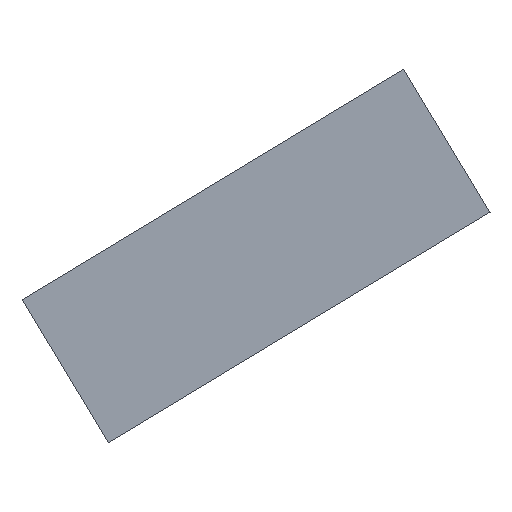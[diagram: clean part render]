
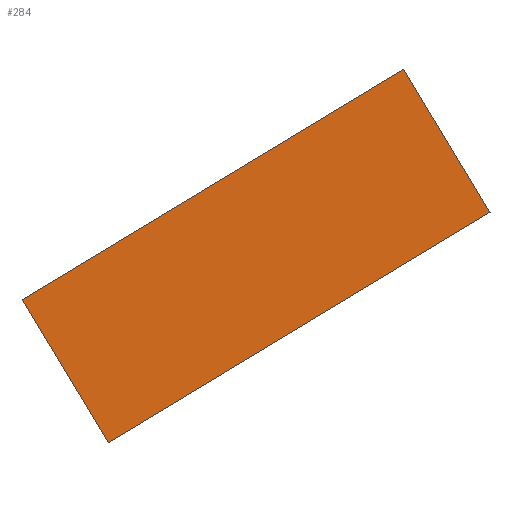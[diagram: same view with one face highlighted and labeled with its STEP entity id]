
A CAD part, left-side view. The second image highlights one B-rep face of the part: STEP entity #284.
In plain terms, the highlighted planar face has unit normal (-1, 0, 0).
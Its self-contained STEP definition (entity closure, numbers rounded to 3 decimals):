
#21 = EDGE_CURVE('',#22,#24,#26,.T.);
#22 = VERTEX_POINT('',#23);
#23 = CARTESIAN_POINT('',(-190.,-739.276,1705.554));
#24 = VERTEX_POINT('',#25);
#25 = CARTESIAN_POINT('',(-190.,-747.029,1692.713));
#26 = SURFACE_CURVE('',#27,(#31,#43),.PCURVE_S1.);
#27 = LINE('',#28,#29);
#28 = CARTESIAN_POINT('',(-190.,-739.276,1705.554));
#29 = VECTOR('',#30,1.);
#30 = DIRECTION('',(0.,-0.517,-0.856));
#31 = PCURVE('',#32,#37);
#32 = PLANE('',#33);
#33 = AXIS2_PLACEMENT_3D('',#34,#35,#36);
#34 = CARTESIAN_POINT('',(-190.,-739.276,1705.554));
#35 = DIRECTION('',(0.,-0.856,0.517));
#36 = DIRECTION('',(1.,0.,0.));
#37 = DEFINITIONAL_REPRESENTATION('',(#38),#42);
#38 = LINE('',#39,#40);
#39 = CARTESIAN_POINT('',(0.,0.));
#40 = VECTOR('',#41,1.);
#41 = DIRECTION('',(0.,-1.));
#42 = ( GEOMETRIC_REPRESENTATION_CONTEXT(2) 
PARAMETRIC_REPRESENTATION_CONTEXT() REPRESENTATION_CONTEXT('2D SPACE',''
  ) );
#43 = PCURVE('',#44,#49);
#44 = PLANE('',#45);
#45 = AXIS2_PLACEMENT_3D('',#46,#47,#48);
#46 = CARTESIAN_POINT('',(-190.,-773.519,1726.229));
#47 = DIRECTION('',(1.,0.,0.));
#48 = DIRECTION('',(0.,0.856,-0.517));
#49 = DEFINITIONAL_REPRESENTATION('',(#50),#54);
#50 = LINE('',#51,#52);
#51 = CARTESIAN_POINT('',(40.,0.));
#52 = VECTOR('',#53,1.);
#53 = DIRECTION('',(0.,-1.));
#54 = ( GEOMETRIC_REPRESENTATION_CONTEXT(2) 
PARAMETRIC_REPRESENTATION_CONTEXT() REPRESENTATION_CONTEXT('2D SPACE',''
  ) );
#72 = PLANE('',#73);
#73 = AXIS2_PLACEMENT_3D('',#74,#75,#76);
#74 = CARTESIAN_POINT('',(0.,-764.15,
    1703.051));
#75 = DIRECTION('',(-0.,-0.517,-0.856));
#76 = DIRECTION('',(0.,-0.856,0.517));
#126 = PLANE('',#127);
#127 = AXIS2_PLACEMENT_3D('',#128,#129,#130);
#128 = CARTESIAN_POINT('',(0.,-756.397,
    1715.892));
#129 = DIRECTION('',(-0.,-0.517,-0.856));
#130 = DIRECTION('',(0.,-0.856,0.517));
#181 = PLANE('',#182);
#182 = AXIS2_PLACEMENT_3D('',#183,#184,#185);
#183 = CARTESIAN_POINT('',(190.,-773.519,1726.229));
#184 = DIRECTION('',(0.,0.856,-0.517));
#185 = DIRECTION('',(-1.,0.,0.));
#219 = VERTEX_POINT('',#220);
#220 = CARTESIAN_POINT('',(-190.,-781.272,1713.388));
#241 = EDGE_CURVE('',#242,#219,#244,.T.);
#242 = VERTEX_POINT('',#243);
#243 = CARTESIAN_POINT('',(-190.,-773.519,1726.229));
#244 = SURFACE_CURVE('',#245,(#249,#256),.PCURVE_S1.);
#245 = LINE('',#246,#247);
#246 = CARTESIAN_POINT('',(-190.,-773.519,1726.229));
#247 = VECTOR('',#248,1.);
#248 = DIRECTION('',(0.,-0.517,-0.856));
#249 = PCURVE('',#181,#250);
#250 = DEFINITIONAL_REPRESENTATION('',(#251),#255);
#251 = LINE('',#252,#253);
#252 = CARTESIAN_POINT('',(380.,0.));
#253 = VECTOR('',#254,1.);
#254 = DIRECTION('',(-0.,-1.));
#255 = ( GEOMETRIC_REPRESENTATION_CONTEXT(2) 
PARAMETRIC_REPRESENTATION_CONTEXT() REPRESENTATION_CONTEXT('2D SPACE',''
  ) );
#256 = PCURVE('',#44,#257);
#257 = DEFINITIONAL_REPRESENTATION('',(#258),#262);
#258 = LINE('',#259,#260);
#259 = CARTESIAN_POINT('',(0.,0.));
#260 = VECTOR('',#261,1.);
#261 = DIRECTION('',(0.,-1.));
#262 = ( GEOMETRIC_REPRESENTATION_CONTEXT(2) 
PARAMETRIC_REPRESENTATION_CONTEXT() REPRESENTATION_CONTEXT('2D SPACE',''
  ) );
#284 = ADVANCED_FACE('',(#285),#44,.F.);
#285 = FACE_BOUND('',#286,.F.);
#286 = EDGE_LOOP('',(#287,#288,#309,#310));
#287 = ORIENTED_EDGE('',*,*,#241,.T.);
#288 = ORIENTED_EDGE('',*,*,#289,.T.);
#289 = EDGE_CURVE('',#219,#24,#290,.T.);
#290 = SURFACE_CURVE('',#291,(#295,#302),.PCURVE_S1.);
#291 = LINE('',#292,#293);
#292 = CARTESIAN_POINT('',(-190.,-781.272,1713.388));
#293 = VECTOR('',#294,1.);
#294 = DIRECTION('',(0.,0.856,-0.517));
#295 = PCURVE('',#44,#296);
#296 = DEFINITIONAL_REPRESENTATION('',(#297),#301);
#297 = LINE('',#298,#299);
#298 = CARTESIAN_POINT('',(0.,-15.));
#299 = VECTOR('',#300,1.);
#300 = DIRECTION('',(1.,0.));
#301 = ( GEOMETRIC_REPRESENTATION_CONTEXT(2) 
PARAMETRIC_REPRESENTATION_CONTEXT() REPRESENTATION_CONTEXT('2D SPACE',''
  ) );
#302 = PCURVE('',#72,#303);
#303 = DEFINITIONAL_REPRESENTATION('',(#304),#308);
#304 = LINE('',#305,#306);
#305 = CARTESIAN_POINT('',(20.,190.));
#306 = VECTOR('',#307,1.);
#307 = DIRECTION('',(-1.,0.));
#308 = ( GEOMETRIC_REPRESENTATION_CONTEXT(2) 
PARAMETRIC_REPRESENTATION_CONTEXT() REPRESENTATION_CONTEXT('2D SPACE',''
  ) );
#309 = ORIENTED_EDGE('',*,*,#21,.F.);
#310 = ORIENTED_EDGE('',*,*,#311,.F.);
#311 = EDGE_CURVE('',#242,#22,#312,.T.);
#312 = SURFACE_CURVE('',#313,(#317,#324),.PCURVE_S1.);
#313 = LINE('',#314,#315);
#314 = CARTESIAN_POINT('',(-190.,-773.519,1726.229));
#315 = VECTOR('',#316,1.);
#316 = DIRECTION('',(0.,0.856,-0.517));
#317 = PCURVE('',#44,#318);
#318 = DEFINITIONAL_REPRESENTATION('',(#319),#323);
#319 = LINE('',#320,#321);
#320 = CARTESIAN_POINT('',(0.,0.));
#321 = VECTOR('',#322,1.);
#322 = DIRECTION('',(1.,0.));
#323 = ( GEOMETRIC_REPRESENTATION_CONTEXT(2) 
PARAMETRIC_REPRESENTATION_CONTEXT() REPRESENTATION_CONTEXT('2D SPACE',''
  ) );
#324 = PCURVE('',#126,#325);
#325 = DEFINITIONAL_REPRESENTATION('',(#326),#330);
#326 = LINE('',#327,#328);
#327 = CARTESIAN_POINT('',(20.,190.));
#328 = VECTOR('',#329,1.);
#329 = DIRECTION('',(-1.,0.));
#330 = ( GEOMETRIC_REPRESENTATION_CONTEXT(2) 
PARAMETRIC_REPRESENTATION_CONTEXT() REPRESENTATION_CONTEXT('2D SPACE',''
  ) );
